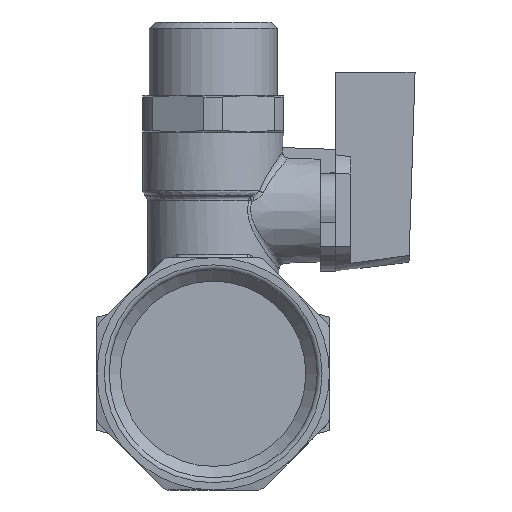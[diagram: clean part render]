
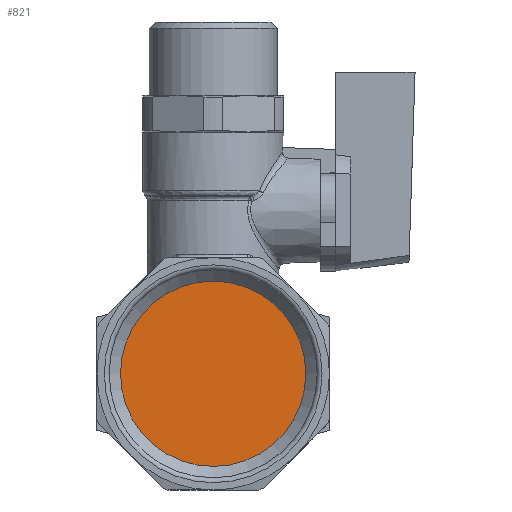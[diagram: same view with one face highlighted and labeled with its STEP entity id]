
A CAD part, front view. The second image highlights one B-rep face of the part: STEP entity #821.
In plain terms, the highlighted planar face has unit normal (0, -1, 0).
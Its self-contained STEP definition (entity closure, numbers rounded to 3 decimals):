
#821=ADVANCED_FACE('',(#9227),#9229,.T.);
#9227=FACE_BOUND('',#9228,.T.);
#9228=EDGE_LOOP('',(#15423));
#9229=PLANE('',#9230);
#9230=AXIS2_PLACEMENT_3D('',#9231,#9232,#9233);
#9231=CARTESIAN_POINT('',(0.,15.5,0.));
#9232=DIRECTION('',(0.,-1.,0.));
#9233=DIRECTION('',(0.,0.,-1.));
#15423=ORIENTED_EDGE('',*,*,#18020,.T.);
#18020=EDGE_CURVE('',#21733,#21733,#21734,.T.);
#21733=VERTEX_POINT('',#39489);
#21734=CIRCLE('',#39490,15.146);
#39489=CARTESIAN_POINT('',(0.,15.5,-15.146));
#39490=AXIS2_PLACEMENT_3D('',#39491,#39492,#39493);
#39491=CARTESIAN_POINT('',(0.,15.5,0.));
#39492=DIRECTION('',(0.,-1.,0.));
#39493=DIRECTION('',(0.,0.,-1.));
